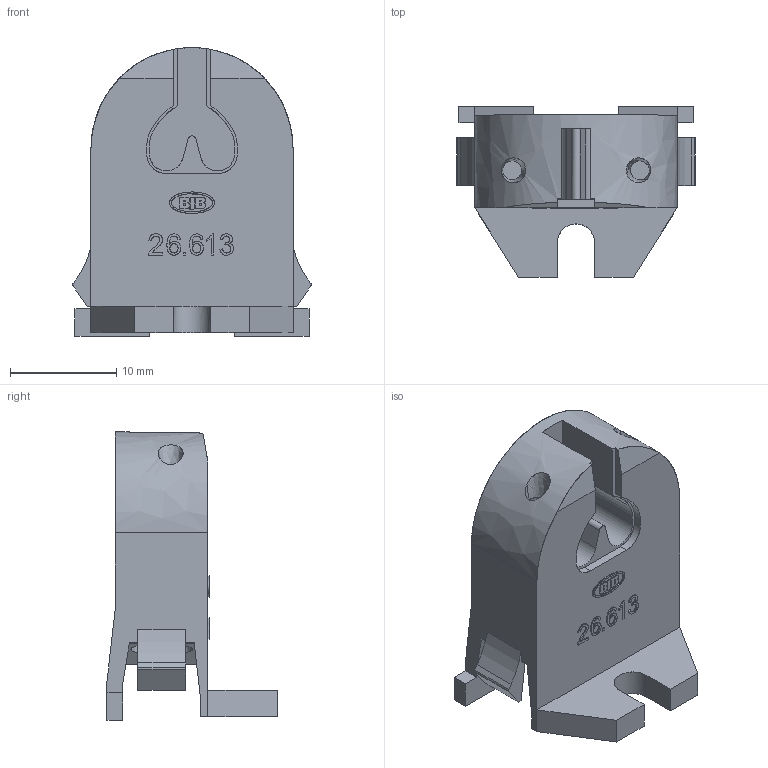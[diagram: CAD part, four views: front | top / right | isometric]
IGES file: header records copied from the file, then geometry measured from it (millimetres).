
Global section: file name: C:\coretechnologie2011\in/01AYD01Y0A.igs; native system: CT CoreTechnologie 3D Evolution; preprocessor: 2006; author: assmuth; date: 1110730.111846; units: millimetre
Bounding box: 22.42 x 16 x 27.15 mm (x, y, z)
Surface area: 2729.8 mm2 (no closed solid volume)
Topology: 0 solids, 0 shells, 297 faces, 1610 edges, 1610 vertices
Faces by surface type: bspline 297
